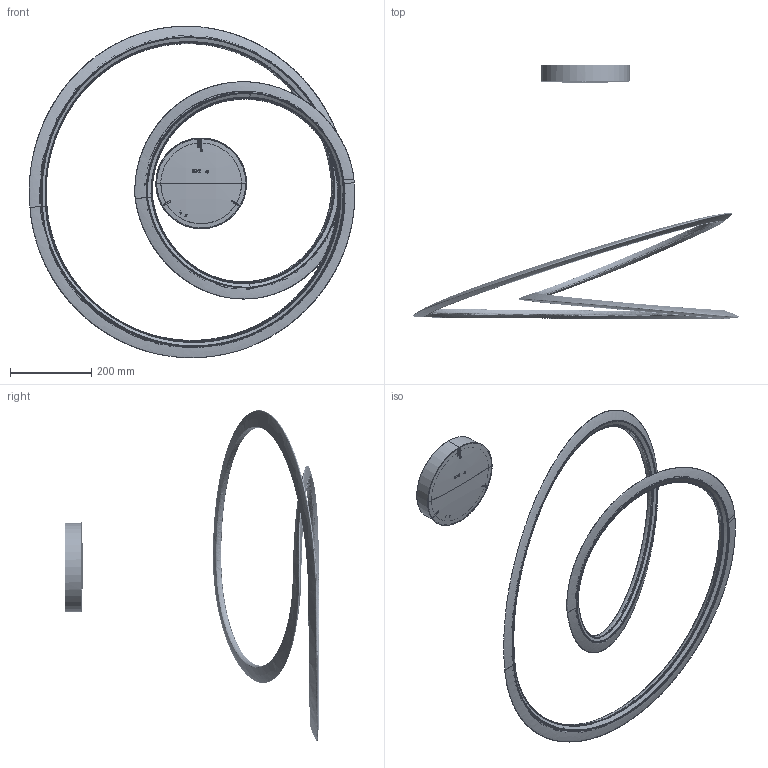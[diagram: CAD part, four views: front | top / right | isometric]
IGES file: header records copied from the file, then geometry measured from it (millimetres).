
Start section: SolidWorks IGES file using analytic representation for surfaces
Global section: file name: C:\Users\MarcoErba\Desktop\3D_KEPLER_MINOR_DOWN_LIGHT.IGS; native system: SolidWorks 2016; preprocessor: SolidWorks 2016; author: MarcoErba; date: 220406.115232; units: millimetre
Bounding box: 803.59 x 627.94 x 818.23 mm (x, y, z)
Surface area: 822785.5 mm2 (no closed solid volume)
Topology: 0 solids, 0 shells, 276 faces, 2621 edges, 2618 vertices
Faces by surface type: bspline 252, revolution 24
